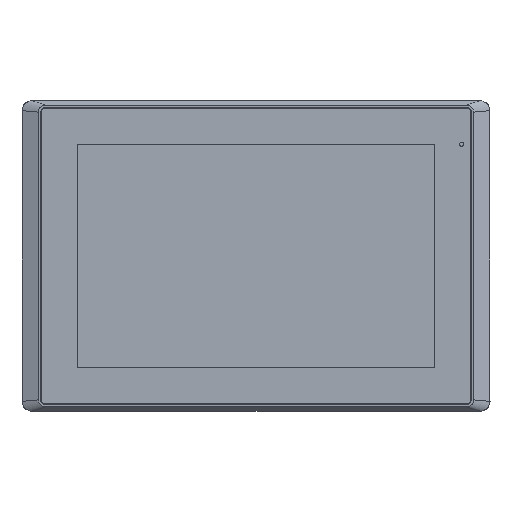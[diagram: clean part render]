
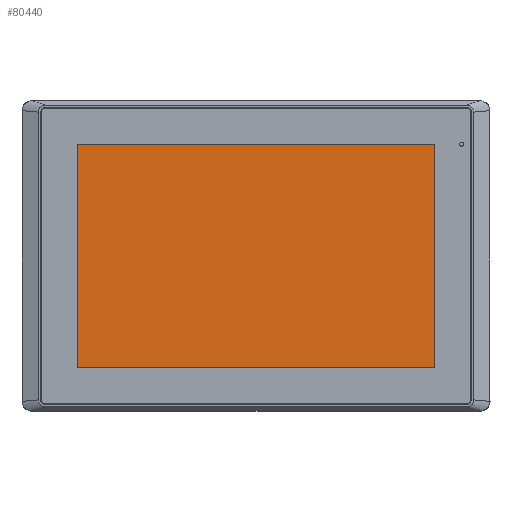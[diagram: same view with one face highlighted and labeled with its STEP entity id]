
A CAD part, top view. The second image highlights one B-rep face of the part: STEP entity #80440.
In plain terms, the highlighted planar face has unit normal (0, 0, 1).
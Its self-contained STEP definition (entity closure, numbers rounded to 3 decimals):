
#10661 = VECTOR ( 'NONE', #144513, 39.37 ) ;
#11983 = VECTOR ( 'NONE', #176212, 39.37 ) ;
#15995 = LINE ( 'NONE', #80248, #10661 ) ;
#17563 = DIRECTION ( 'NONE',  ( -1., 0., 0. ) ) ;
#20776 = VERTEX_POINT ( 'NONE', #189379 ) ;
#30964 = VECTOR ( 'NONE', #17563, 39.37 ) ;
#34702 = LINE ( 'NONE', #98958, #188074 ) ;
#47640 = LINE ( 'NONE', #111922, #11983 ) ;
#52935 = FACE_OUTER_BOUND ( 'NONE', #73281, .T. ) ;
#55012 = DIRECTION ( 'NONE',  ( 1., 0., 0. ) ) ;
#63779 = CARTESIAN_POINT ( 'NONE',  ( 4.283, -2.661, 0.275 ) ) ;
#73281 = EDGE_LOOP ( 'NONE', ( #75701, #73578, #116857, #90179 ) ) ;
#73578 = ORIENTED_EDGE ( 'NONE', *, *, #180080, .T. ) ;
#75701 = ORIENTED_EDGE ( 'NONE', *, *, #174450, .T. ) ;
#76712 = VERTEX_POINT ( 'NONE', #160403 ) ;
#80248 = CARTESIAN_POINT ( 'NONE',  ( 0., -2.661, 0.275 ) ) ;
#80440 = ADVANCED_FACE ( 'NONE', ( #52935 ), #117192, .T. ) ;
#90179 = ORIENTED_EDGE ( 'NONE', *, *, #189698, .T. ) ;
#97619 = LINE ( 'NONE', #161927, #30964 ) ;
#98958 = CARTESIAN_POINT ( 'NONE',  ( 4.283, 0., 0.275 ) ) ;
#102715 = VERTEX_POINT ( 'NONE', #176917 ) ;
#111922 = CARTESIAN_POINT ( 'NONE',  ( -4.283, 0., 0.275 ) ) ;
#116857 = ORIENTED_EDGE ( 'NONE', *, *, #162205, .T. ) ;
#117192 = PLANE ( 'NONE',  #186178 ) ;
#135072 = CARTESIAN_POINT ( 'NONE',  ( 0., 0., 0.275 ) ) ;
#144513 = DIRECTION ( 'NONE',  ( 1., 0., 0. ) ) ;
#156809 = VERTEX_POINT ( 'NONE', #63779 ) ;
#160403 = CARTESIAN_POINT ( 'NONE',  ( -4.283, -2.661, 0.275 ) ) ;
#161927 = CARTESIAN_POINT ( 'NONE',  ( 0., 2.701, 0.275 ) ) ;
#162205 = EDGE_CURVE ( 'NONE', #102715, #76712, #47640, .T. ) ;
#163277 = DIRECTION ( 'NONE',  ( 0., 1., 0. ) ) ;
#174450 = EDGE_CURVE ( 'NONE', #156809, #20776, #34702, .T. ) ;
#176212 = DIRECTION ( 'NONE',  ( 0., -1., 0. ) ) ;
#176917 = CARTESIAN_POINT ( 'NONE',  ( -4.283, 2.701, 0.275 ) ) ;
#180080 = EDGE_CURVE ( 'NONE', #20776, #102715, #97619, .T. ) ;
#186178 = AXIS2_PLACEMENT_3D ( 'NONE', #135072, #199349, #55012 ) ;
#188074 = VECTOR ( 'NONE', #163277, 39.37 ) ;
#189379 = CARTESIAN_POINT ( 'NONE',  ( 4.283, 2.701, 0.275 ) ) ;
#189698 = EDGE_CURVE ( 'NONE', #76712, #156809, #15995, .T. ) ;
#199349 = DIRECTION ( 'NONE',  ( 0., 0., 1. ) ) ;
